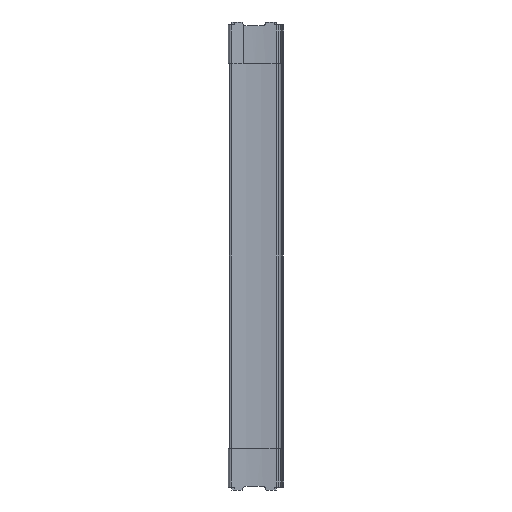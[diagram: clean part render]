
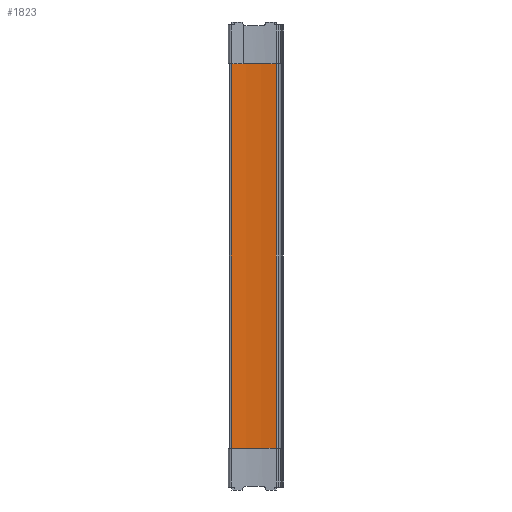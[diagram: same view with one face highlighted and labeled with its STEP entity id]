
A CAD part, left-side view. The second image highlights one B-rep face of the part: STEP entity #1823.
In plain terms, the highlighted cylindrical face has radius 250 mm (diameter 500 mm), a partial arc.
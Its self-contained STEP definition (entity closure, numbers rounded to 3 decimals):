
#443 = CYLINDRICAL_SURFACE ( 'NONE', #1910, 250. ) ;
#446 = FACE_OUTER_BOUND ( 'NONE', #3870, .T. ) ;
#747 = ORIENTED_EDGE ( 'NONE', *, *, #3672, .F. ) ;
#748 = ORIENTED_EDGE ( 'NONE', *, *, #3622, .F. ) ;
#749 = ORIENTED_EDGE ( 'NONE', *, *, #3677, .F. ) ;
#750 = ORIENTED_EDGE ( 'NONE', *, *, #3740, .T. ) ;
#1353 = CARTESIAN_POINT ( 'NONE',  ( -8.643, 8.331, 241.3 ) ) ;
#1354 = DIRECTION ( 'NONE',  ( 0., 0., -1. ) ) ;
#1485 = CARTESIAN_POINT ( 'NONE',  ( -255.319, 48.963, -235.3 ) ) ;
#1486 = DIRECTION ( 'NONE',  ( 0., 0., 1. ) ) ;
#1487 = DIRECTION ( 'NONE',  ( -1., 0., 0. ) ) ;
#1498 = CARTESIAN_POINT ( 'NONE',  ( -255.319, 48.963, 235.3 ) ) ;
#1499 = DIRECTION ( 'NONE',  ( 0., 0., -1. ) ) ;
#1500 = DIRECTION ( 'NONE',  ( 1., 0., 0. ) ) ;
#1653 = CARTESIAN_POINT ( 'NONE',  ( -5.747, 63.571, 241.3 ) ) ;
#1654 = DIRECTION ( 'NONE',  ( 0., 0., -1. ) ) ;
#1823 = ADVANCED_FACE ( 'NONE', ( #446 ), #443, .F. ) ;
#1910 = AXIS2_PLACEMENT_3D ( 'NONE', #2600, #2601, #2602 ) ;
#2049 = AXIS2_PLACEMENT_3D ( 'NONE', #1485, #1486, #1487 ) ;
#2050 = AXIS2_PLACEMENT_3D ( 'NONE', #1498, #1499, #1500 ) ;
#2227 = CARTESIAN_POINT ( 'NONE',  ( -5.747, 63.571, -235.3 ) ) ;
#2374 = CARTESIAN_POINT ( 'NONE',  ( -8.643, 8.331, 235.3 ) ) ;
#2377 = CARTESIAN_POINT ( 'NONE',  ( -5.747, 63.571, 235.3 ) ) ;
#2394 = CARTESIAN_POINT ( 'NONE',  ( -8.643, 8.331, -235.3 ) ) ;
#2600 = CARTESIAN_POINT ( 'NONE',  ( -255.319, 48.963, 241.3 ) ) ;
#2601 = DIRECTION ( 'NONE',  ( 0., 0., -1. ) ) ;
#2602 = DIRECTION ( 'NONE',  ( -1., 0., 0. ) ) ;
#2795 = VERTEX_POINT ( 'NONE', #2394 ) ;
#2841 = VERTEX_POINT ( 'NONE', #2377 ) ;
#2844 = VERTEX_POINT ( 'NONE', #2374 ) ;
#3021 = VERTEX_POINT ( 'NONE', #2227 ) ;
#3160 = VECTOR ( 'NONE', #1654, 1000. ) ;
#3161 = LINE ( 'NONE', #1653, #3160 ) ;
#3256 = CIRCLE ( 'NONE', #2050, 250. ) ;
#3262 = CIRCLE ( 'NONE', #2049, 250. ) ;
#3338 = VECTOR ( 'NONE', #1354, 1000. ) ;
#3342 = LINE ( 'NONE', #1353, #3338 ) ;
#3622 = EDGE_CURVE ( 'NONE', #2844, #2795, #3342, .T. ) ;
#3672 = EDGE_CURVE ( 'NONE', #2795, #3021, #3262, .T. ) ;
#3677 = EDGE_CURVE ( 'NONE', #2841, #2844, #3256, .T. ) ;
#3740 = EDGE_CURVE ( 'NONE', #2841, #3021, #3161, .T. ) ;
#3870 = EDGE_LOOP ( 'NONE', ( #747, #748, #749, #750 ) ) ;
